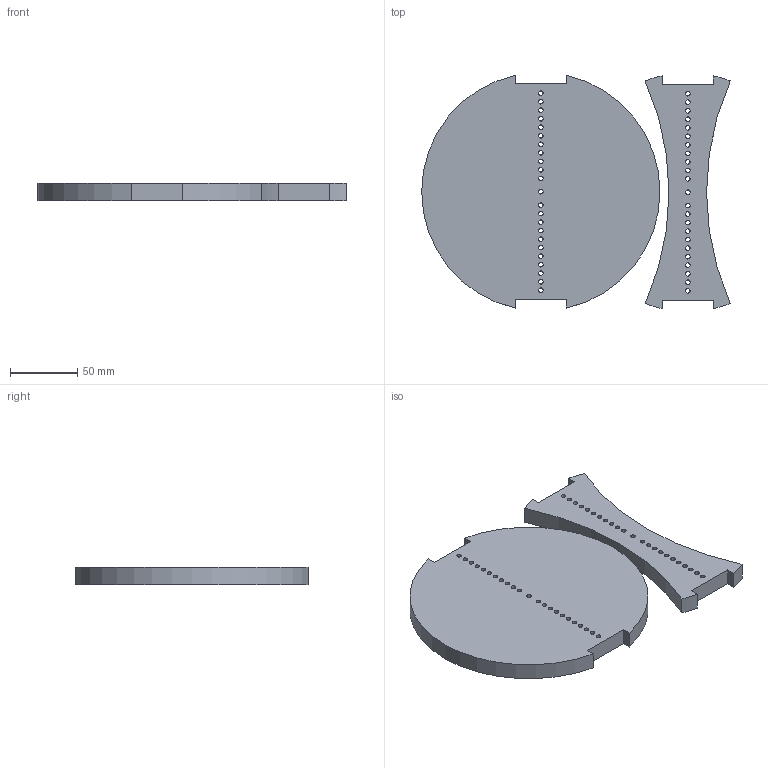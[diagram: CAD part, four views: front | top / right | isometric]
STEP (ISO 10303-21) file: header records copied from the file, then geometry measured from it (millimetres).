
FILE_DESCRIPTION (( 'STEP AP214' ), '1' );
FILE_NAME ('Plate.STEP', '2017-08-22T00:03:32', ( 'John' ), ( 'None' ), 'SwSTEP 2.0', 'SolidWorks 2007', '' );
FILE_SCHEMA (( 'AUTOMOTIVE_DESIGN' ));
Length unit declared in the file: inch
Products named in the file (3): top guide; top guide_center; Plate
Assembly tree (2 placements, depth 2):
  Plate
    top guide
    top guide_center
Bounding box: 230.27 x 174.05 x 12.7 mm (x, y, z)
Volume: 384902.3 mm3; surface area: 80626.6 mm2
Topology: 2 solids, 2 shells, 116 faces, 336 edges, 224 vertices
Faces by surface type: cylinder 100, plane 16
Entity records: 4274 total; most frequent: DIRECTION 778, CARTESIAN_POINT 681, ORIENTED_EDGE 672, EDGE_CURVE 336, AXIS2_PLACEMENT_3D 321, VERTEX_POINT 224, EDGE_LOOP 208, CIRCLE 200
